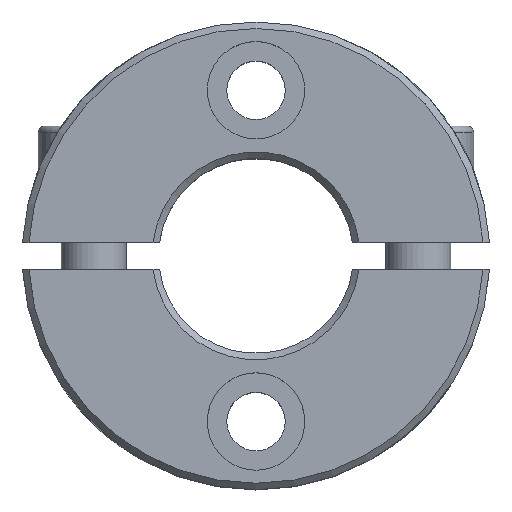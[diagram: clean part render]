
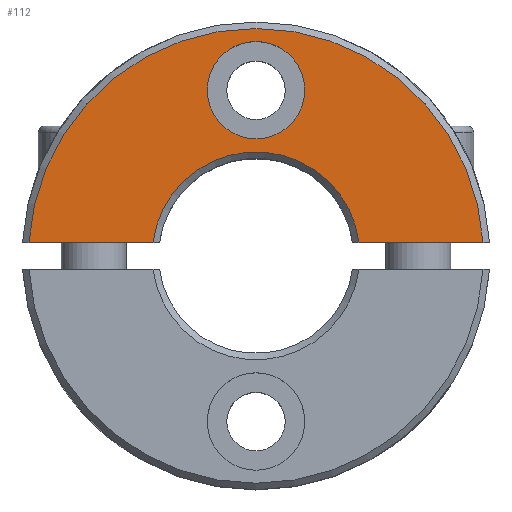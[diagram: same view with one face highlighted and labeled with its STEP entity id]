
A CAD part, top view. The second image highlights one B-rep face of the part: STEP entity #112.
In plain terms, the highlighted planar face has unit normal (0, 0, 1).
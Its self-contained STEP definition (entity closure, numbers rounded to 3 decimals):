
#112 = ADVANCED_FACE( '', ( #235, #236 ), #237, .T. );
#235 = FACE_OUTER_BOUND( '', #397, .T. );
#236 = FACE_BOUND( '', #398, .T. );
#237 = PLANE( '', #399 );
#397 = EDGE_LOOP( '', ( #703, #704, #705, #706 ) );
#398 = EDGE_LOOP( '', ( #707 ) );
#399 = AXIS2_PLACEMENT_3D( '', #708, #709, #710 );
#703 = ORIENTED_EDGE( '', *, *, #890, .F. );
#704 = ORIENTED_EDGE( '', *, *, #908, .T. );
#705 = ORIENTED_EDGE( '', *, *, #902, .F. );
#706 = ORIENTED_EDGE( '', *, *, #894, .F. );
#707 = ORIENTED_EDGE( '', *, *, #941, .T. );
#708 = CARTESIAN_POINT( '', ( 0., 8., 6.5 ) );
#709 = DIRECTION( '', ( 0., 0., 1. ) );
#710 = DIRECTION( '', ( 1., 0., 0. ) );
#890 = EDGE_CURVE( '', #1015, #1017, #1018, .T. );
#894 = EDGE_CURVE( '', #1017, #1024, #1025, .T. );
#902 = EDGE_CURVE( '', #1024, #1037, #1038, .T. );
#908 = EDGE_CURVE( '', #1015, #1037, #1047, .T. );
#941 = EDGE_CURVE( '', #1106, #1106, #1107, .F. );
#1015 = VERTEX_POINT( '', #1352 );
#1017 = VERTEX_POINT( '', #1357 );
#1018 = LINE( '', #1358, #1359 );
#1024 = VERTEX_POINT( '', #1372 );
#1025 = CIRCLE( '', #1373, 8. );
#1037 = VERTEX_POINT( '', #1392 );
#1038 = LINE( '', #1393, #1394 );
#1047 = CIRCLE( '', #1411, 17.5 );
#1106 = VERTEX_POINT( '', #1609 );
#1107 = CIRCLE( '', #1610, 3.75 );
#1352 = CARTESIAN_POINT( '', ( 17.468, 1.05, 6.5 ) );
#1357 = CARTESIAN_POINT( '', ( 7.931, 1.05, 6.5 ) );
#1358 = CARTESIAN_POINT( '', ( 20., 1.05, 6.5 ) );
#1359 = VECTOR( '', #1767, 1000. );
#1372 = CARTESIAN_POINT( '', ( -7.931, 1.05, 6.5 ) );
#1373 = AXIS2_PLACEMENT_3D( '', #1769, #1770, #1771 );
#1392 = CARTESIAN_POINT( '', ( -17.468, 1.05, 6.5 ) );
#1393 = CARTESIAN_POINT( '', ( 0., 1.05, 6.5 ) );
#1394 = VECTOR( '', #1785, 1000. );
#1411 = AXIS2_PLACEMENT_3D( '', #1791, #1792, #1793 );
#1609 = CARTESIAN_POINT( '', ( 3.75, 12.75, 6.5 ) );
#1610 = AXIS2_PLACEMENT_3D( '', #1848, #1849, #1850 );
#1767 = DIRECTION( '', ( -1., 0., 0. ) );
#1769 = CARTESIAN_POINT( '', ( 0., 0., 6.5 ) );
#1770 = DIRECTION( '', ( 0., 0., 1. ) );
#1771 = DIRECTION( '', ( 1., 0., 0. ) );
#1785 = DIRECTION( '', ( -1., 0., 0. ) );
#1791 = CARTESIAN_POINT( '', ( 0., 0., 6.5 ) );
#1792 = DIRECTION( '', ( 0., 0., 1. ) );
#1793 = DIRECTION( '', ( 1., 0., 0. ) );
#1848 = CARTESIAN_POINT( '', ( 0., 12.75, 6.5 ) );
#1849 = DIRECTION( '', ( 0., 0., 1. ) );
#1850 = DIRECTION( '', ( 1., 0., 0. ) );
